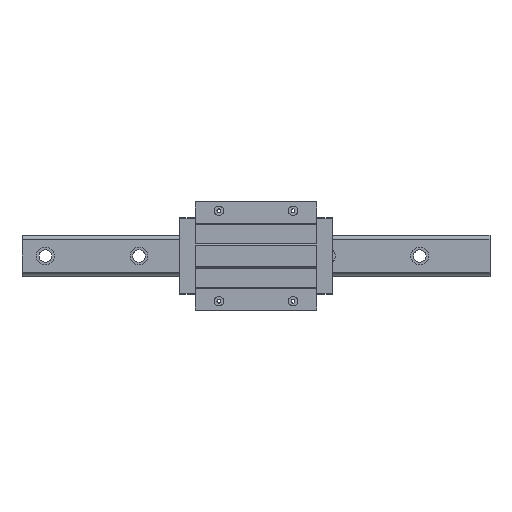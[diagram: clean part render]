
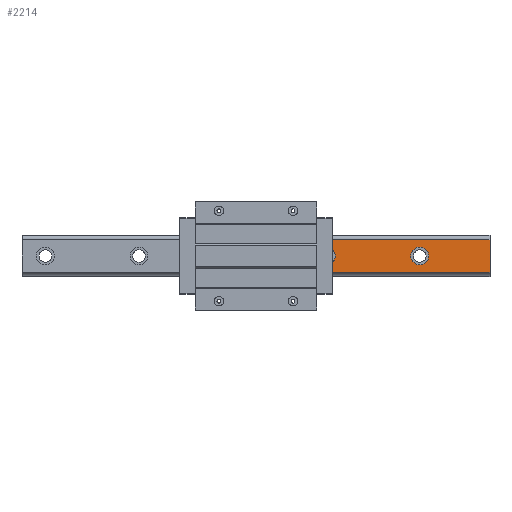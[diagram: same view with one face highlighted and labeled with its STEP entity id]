
A CAD part, top view. The second image highlights one B-rep face of the part: STEP entity #2214.
In plain terms, the highlighted planar face has unit normal (0, 0, 1).
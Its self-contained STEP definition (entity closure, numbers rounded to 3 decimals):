
#23 = CARTESIAN_POINT ( 'NONE',  ( 210., 0., 44. ) ) ;
#31 = ORIENTED_EDGE ( 'NONE', *, *, #4342, .F. ) ;
#35 = AXIS2_PLACEMENT_3D ( 'NONE', #23, #3357, #5243 ) ;
#52 = ORIENTED_EDGE ( 'NONE', *, *, #1770, .T. ) ;
#177 = DIRECTION ( 'NONE',  ( 0., -1., 0. ) ) ;
#196 = LINE ( 'NONE', #5254, #1837 ) ;
#380 = DIRECTION ( 'NONE',  ( -1., 0., 0. ) ) ;
#463 = VECTOR ( 'NONE', #380, 1000. ) ;
#529 = EDGE_LOOP ( 'NONE', ( #3493, #3555 ) ) ;
#589 = CARTESIAN_POINT ( 'NONE',  ( 300., -20.932, 44. ) ) ;
#759 = FACE_BOUND ( 'NONE', #529, .T. ) ;
#928 = ORIENTED_EDGE ( 'NONE', *, *, #5939, .T. ) ;
#964 = CIRCLE ( 'NONE', #5103, 11.5 ) ;
#1147 = LINE ( 'NONE', #2676, #4886 ) ;
#1181 = CARTESIAN_POINT ( 'NONE',  ( 98.25, 8.012, 44. ) ) ;
#1245 = AXIS2_PLACEMENT_3D ( 'NONE', #1277, #1848, #2745 ) ;
#1277 = CARTESIAN_POINT ( 'NONE',  ( 210., 0., 44. ) ) ;
#1466 = CARTESIAN_POINT ( 'NONE',  ( 90., 0., 44. ) ) ;
#1481 = VECTOR ( 'NONE', #177, 1000. ) ;
#1688 = VERTEX_POINT ( 'NONE', #5702 ) ;
#1710 = CARTESIAN_POINT ( 'NONE',  ( 198.5, 0., 44. ) ) ;
#1770 = EDGE_CURVE ( 'NONE', #5054, #5240, #2043, .T. ) ;
#1780 = EDGE_LOOP ( 'NONE', ( #2246, #3655, #1827, #928, #2809, #52, #31 ) ) ;
#1827 = ORIENTED_EDGE ( 'NONE', *, *, #4556, .T. ) ;
#1837 = VECTOR ( 'NONE', #1935, 1000. ) ;
#1848 = DIRECTION ( 'NONE',  ( 0., 0., -1. ) ) ;
#1887 = CIRCLE ( 'NONE', #35, 11.5 ) ;
#1935 = DIRECTION ( 'NONE',  ( 0., -1., 0. ) ) ;
#1936 = EDGE_CURVE ( 'NONE', #4816, #3296, #4620, .T. ) ;
#1943 = VERTEX_POINT ( 'NONE', #2307 ) ;
#2043 = LINE ( 'NONE', #589, #4194 ) ;
#2214 = ADVANCED_FACE ( 'NONE', ( #759, #4088 ), #5836, .F. ) ;
#2220 = VERTEX_POINT ( 'NONE', #1710 ) ;
#2246 = ORIENTED_EDGE ( 'NONE', *, *, #1936, .T. ) ;
#2266 = DIRECTION ( 'NONE',  ( -1., 0., 0. ) ) ;
#2307 = CARTESIAN_POINT ( 'NONE',  ( 101.5, 0., 44. ) ) ;
#2470 = DIRECTION ( 'NONE',  ( 1., 0., 0. ) ) ;
#2642 = DIRECTION ( 'NONE',  ( 0., -1., 0. ) ) ;
#2676 = CARTESIAN_POINT ( 'NONE',  ( 98.25, -20.932, 44. ) ) ;
#2745 = DIRECTION ( 'NONE',  ( -1., 0., 0. ) ) ;
#2809 = ORIENTED_EDGE ( 'NONE', *, *, #3580, .T. ) ;
#2890 = DIRECTION ( 'NONE',  ( -1., 0., 0. ) ) ;
#3005 = CIRCLE ( 'NONE', #4786, 11.5 ) ;
#3177 = CARTESIAN_POINT ( 'NONE',  ( 300., 20.932, 44. ) ) ;
#3296 = VERTEX_POINT ( 'NONE', #3502 ) ;
#3301 = EDGE_CURVE ( 'NONE', #3296, #5405, #1147, .T. ) ;
#3357 = DIRECTION ( 'NONE',  ( 0., 0., -1. ) ) ;
#3470 = CARTESIAN_POINT ( 'NONE',  ( 300., 0., 44. ) ) ;
#3493 = ORIENTED_EDGE ( 'NONE', *, *, #4225, .T. ) ;
#3502 = CARTESIAN_POINT ( 'NONE',  ( 98.25, 20.932, 44. ) ) ;
#3555 = ORIENTED_EDGE ( 'NONE', *, *, #4450, .T. ) ;
#3580 = EDGE_CURVE ( 'NONE', #5735, #5054, #196, .T. ) ;
#3620 = CARTESIAN_POINT ( 'NONE',  ( 90., 0., 44. ) ) ;
#3649 = DIRECTION ( 'NONE',  ( 0., 0., -1. ) ) ;
#3655 = ORIENTED_EDGE ( 'NONE', *, *, #3301, .T. ) ;
#3817 = CARTESIAN_POINT ( 'NONE',  ( 98.25, -8.012, 44. ) ) ;
#3951 = CARTESIAN_POINT ( 'NONE',  ( 300., 21.2, 44. ) ) ;
#4088 = FACE_OUTER_BOUND ( 'NONE', #1780, .T. ) ;
#4096 = AXIS2_PLACEMENT_3D ( 'NONE', #3470, #4918, #2642 ) ;
#4194 = VECTOR ( 'NONE', #2470, 1000. ) ;
#4212 = CIRCLE ( 'NONE', #1245, 11.5 ) ;
#4225 = EDGE_CURVE ( 'NONE', #2220, #1688, #1887, .T. ) ;
#4342 = EDGE_CURVE ( 'NONE', #4816, #5240, #4500, .T. ) ;
#4347 = DIRECTION ( 'NONE',  ( 0., 0., -1. ) ) ;
#4450 = EDGE_CURVE ( 'NONE', #1688, #2220, #4212, .T. ) ;
#4500 = LINE ( 'NONE', #3951, #1481 ) ;
#4556 = EDGE_CURVE ( 'NONE', #5405, #1943, #964, .T. ) ;
#4620 = LINE ( 'NONE', #4651, #463 ) ;
#4651 = CARTESIAN_POINT ( 'NONE',  ( 300., 20.932, 44. ) ) ;
#4786 = AXIS2_PLACEMENT_3D ( 'NONE', #3620, #3649, #2266 ) ;
#4816 = VERTEX_POINT ( 'NONE', #3177 ) ;
#4886 = VECTOR ( 'NONE', #5049, 1000. ) ;
#4918 = DIRECTION ( 'NONE',  ( 0., 0., -1. ) ) ;
#5049 = DIRECTION ( 'NONE',  ( 0., -1., 0. ) ) ;
#5054 = VERTEX_POINT ( 'NONE', #5893 ) ;
#5103 = AXIS2_PLACEMENT_3D ( 'NONE', #1466, #4347, #2890 ) ;
#5239 = CARTESIAN_POINT ( 'NONE',  ( 300., -20.932, 44. ) ) ;
#5240 = VERTEX_POINT ( 'NONE', #5239 ) ;
#5243 = DIRECTION ( 'NONE',  ( -1., 0., 0. ) ) ;
#5254 = CARTESIAN_POINT ( 'NONE',  ( 98.25, -20.932, 44. ) ) ;
#5405 = VERTEX_POINT ( 'NONE', #1181 ) ;
#5702 = CARTESIAN_POINT ( 'NONE',  ( 221.5, 0., 44. ) ) ;
#5735 = VERTEX_POINT ( 'NONE', #3817 ) ;
#5836 = PLANE ( 'NONE',  #4096 ) ;
#5893 = CARTESIAN_POINT ( 'NONE',  ( 98.25, -20.932, 44. ) ) ;
#5939 = EDGE_CURVE ( 'NONE', #1943, #5735, #3005, .T. ) ;
